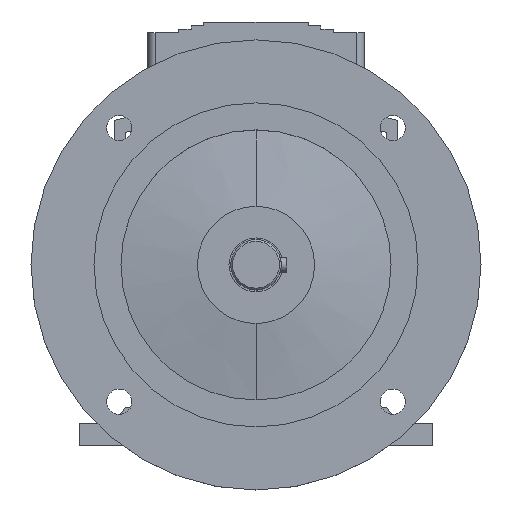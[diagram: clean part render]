
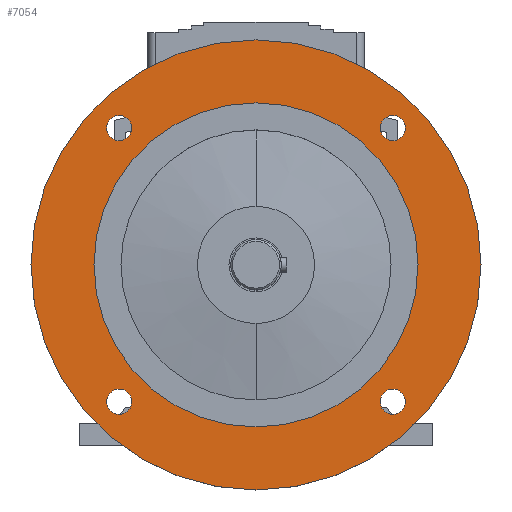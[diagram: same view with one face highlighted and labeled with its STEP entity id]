
A CAD part, top view. The second image highlights one B-rep face of the part: STEP entity #7054.
In plain terms, the highlighted planar face has unit normal (0, 0, 1).
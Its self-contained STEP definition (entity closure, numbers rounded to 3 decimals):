
#1280=CARTESIAN_POINT('',(-76.014,76.014,38.));
#1281=DIRECTION('',(0.,0.,-1.));
#1282=DIRECTION('',(-1.,0.,0.));
#1283=AXIS2_PLACEMENT_3D('',#1280,#1281,#1282);
#1285=CARTESIAN_POINT('',(-76.014,76.014,38.));
#1286=DIRECTION('',(0.,0.,-1.));
#1287=DIRECTION('',(1.,0.,0.));
#1288=AXIS2_PLACEMENT_3D('',#1285,#1286,#1287);
#1290=CARTESIAN_POINT('',(-76.014,-76.014,38.));
#1291=DIRECTION('',(0.,0.,-1.));
#1292=DIRECTION('',(-1.,0.,0.));
#1293=AXIS2_PLACEMENT_3D('',#1290,#1291,#1292);
#1295=CARTESIAN_POINT('',(-76.014,-76.014,38.));
#1296=DIRECTION('',(0.,0.,-1.));
#1297=DIRECTION('',(1.,0.,0.));
#1298=AXIS2_PLACEMENT_3D('',#1295,#1296,#1297);
#1300=CARTESIAN_POINT('',(76.014,-76.014,38.));
#1301=DIRECTION('',(0.,0.,-1.));
#1302=DIRECTION('',(-1.,0.,0.));
#1303=AXIS2_PLACEMENT_3D('',#1300,#1301,#1302);
#1305=CARTESIAN_POINT('',(76.014,-76.014,38.));
#1306=DIRECTION('',(0.,0.,-1.));
#1307=DIRECTION('',(1.,0.,0.));
#1308=AXIS2_PLACEMENT_3D('',#1305,#1306,#1307);
#1310=CARTESIAN_POINT('',(0.,0.,38.));
#1311=DIRECTION('',(0.,0.,1.));
#1312=DIRECTION('',(0.,1.,0.));
#1313=AXIS2_PLACEMENT_3D('',#1310,#1311,#1312);
#1315=CARTESIAN_POINT('',(0.,0.,38.));
#1316=DIRECTION('',(0.,0.,-1.));
#1317=DIRECTION('',(0.,1.,0.));
#1318=AXIS2_PLACEMENT_3D('',#1315,#1316,#1317);
#1320=CARTESIAN_POINT('',(76.014,76.014,38.));
#1321=DIRECTION('',(0.,0.,-1.));
#1322=DIRECTION('',(-1.,0.,0.));
#1323=AXIS2_PLACEMENT_3D('',#1320,#1321,#1322);
#1325=CARTESIAN_POINT('',(76.014,76.014,38.));
#1326=DIRECTION('',(0.,0.,-1.));
#1327=DIRECTION('',(1.,0.,0.));
#1328=AXIS2_PLACEMENT_3D('',#1325,#1326,#1327);
#1350=CARTESIAN_POINT('',(0.,0.,38.));
#1351=DIRECTION('',(0.,0.,-1.));
#1352=DIRECTION('',(0.,1.,0.));
#1353=AXIS2_PLACEMENT_3D('',#1350,#1351,#1352);
#1363=CARTESIAN_POINT('',(0.,0.,38.));
#1364=DIRECTION('',(0.,0.,1.));
#1365=DIRECTION('',(0.,1.,0.));
#1366=AXIS2_PLACEMENT_3D('',#1363,#1364,#1365);
#4035=CARTESIAN_POINT('',(0.,125.,38.));
#4037=VERTEX_POINT('',#4035);
#4038=CARTESIAN_POINT('',(0.,90.,38.));
#4040=VERTEX_POINT('',#4038);
#4043=CARTESIAN_POINT('',(0.,-125.,38.));
#4045=VERTEX_POINT('',#4043);
#4046=CARTESIAN_POINT('',(0.,-90.,38.));
#4048=VERTEX_POINT('',#4046);
#4054=CARTESIAN_POINT('',(69.014,76.014,38.));
#4055=CARTESIAN_POINT('',(83.014,76.014,38.));
#4056=VERTEX_POINT('',#4054);
#4057=VERTEX_POINT('',#4055);
#4062=CARTESIAN_POINT('',(69.014,-76.014,38.));
#4063=CARTESIAN_POINT('',(83.014,-76.014,38.));
#4064=VERTEX_POINT('',#4062);
#4065=VERTEX_POINT('',#4063);
#4070=CARTESIAN_POINT('',(-83.014,-76.014,38.));
#4071=CARTESIAN_POINT('',(-69.014,-76.014,38.));
#4072=VERTEX_POINT('',#4070);
#4073=VERTEX_POINT('',#4071);
#4078=CARTESIAN_POINT('',(-83.014,76.014,38.));
#4079=CARTESIAN_POINT('',(-69.014,76.014,38.));
#4080=VERTEX_POINT('',#4078);
#4081=VERTEX_POINT('',#4079);
#7014=CARTESIAN_POINT('',(0.,0.,38.));
#7015=DIRECTION('',(0.,0.,-1.));
#7016=DIRECTION('',(0.,-1.,0.));
#7017=AXIS2_PLACEMENT_3D('',#7014,#7015,#7016);
#7018=PLANE('',#7017);
#7020=ORIENTED_EDGE('',*,*,#7019,.F.);
#7022=ORIENTED_EDGE('',*,*,#7021,.T.);
#7023=EDGE_LOOP('',(#7020,#7022));
#7024=FACE_OUTER_BOUND('',#7023,.F.);
#7025=ORIENTED_EDGE('',*,*,#7004,.F.);
#7027=ORIENTED_EDGE('',*,*,#7026,.F.);
#7028=EDGE_LOOP('',(#7025,#7027));
#7029=FACE_BOUND('',#7028,.F.);
#7031=ORIENTED_EDGE('',*,*,#7030,.F.);
#7033=ORIENTED_EDGE('',*,*,#7032,.F.);
#7034=EDGE_LOOP('',(#7031,#7033));
#7035=FACE_BOUND('',#7034,.F.);
#7037=ORIENTED_EDGE('',*,*,#7036,.F.);
#7039=ORIENTED_EDGE('',*,*,#7038,.F.);
#7040=EDGE_LOOP('',(#7037,#7039));
#7041=FACE_BOUND('',#7040,.F.);
#7043=ORIENTED_EDGE('',*,*,#7042,.F.);
#7045=ORIENTED_EDGE('',*,*,#7044,.T.);
#7046=EDGE_LOOP('',(#7043,#7045));
#7047=FACE_BOUND('',#7046,.F.);
#7049=ORIENTED_EDGE('',*,*,#7048,.F.);
#7051=ORIENTED_EDGE('',*,*,#7050,.F.);
#7052=EDGE_LOOP('',(#7049,#7051));
#7053=FACE_BOUND('',#7052,.F.);
#7054=ADVANCED_FACE('',(#7024,#7029,#7035,#7041,#7047,#7053),#7018,.F.);
#1284=CIRCLE('',#1283,7.);
#1289=CIRCLE('',#1288,7.);
#1294=CIRCLE('',#1293,7.);
#1299=CIRCLE('',#1298,7.);
#1304=CIRCLE('',#1303,7.);
#1309=CIRCLE('',#1308,7.);
#1314=CIRCLE('',#1313,125.);
#1319=CIRCLE('',#1318,125.);
#1324=CIRCLE('',#1323,7.);
#1329=CIRCLE('',#1328,7.);
#1354=CIRCLE('',#1353,90.);
#1367=CIRCLE('',#1366,90.);
#7004=EDGE_CURVE('',#4080,#4081,#1284,.T.);
#7019=EDGE_CURVE('',#4037,#4045,#1314,.T.);
#7021=EDGE_CURVE('',#4037,#4045,#1319,.T.);
#7026=EDGE_CURVE('',#4081,#4080,#1289,.T.);
#7030=EDGE_CURVE('',#4072,#4073,#1294,.T.);
#7032=EDGE_CURVE('',#4073,#4072,#1299,.T.);
#7036=EDGE_CURVE('',#4064,#4065,#1304,.T.);
#7038=EDGE_CURVE('',#4065,#4064,#1309,.T.);
#7042=EDGE_CURVE('',#4040,#4048,#1354,.T.);
#7044=EDGE_CURVE('',#4040,#4048,#1367,.T.);
#7048=EDGE_CURVE('',#4056,#4057,#1324,.T.);
#7050=EDGE_CURVE('',#4057,#4056,#1329,.T.);
